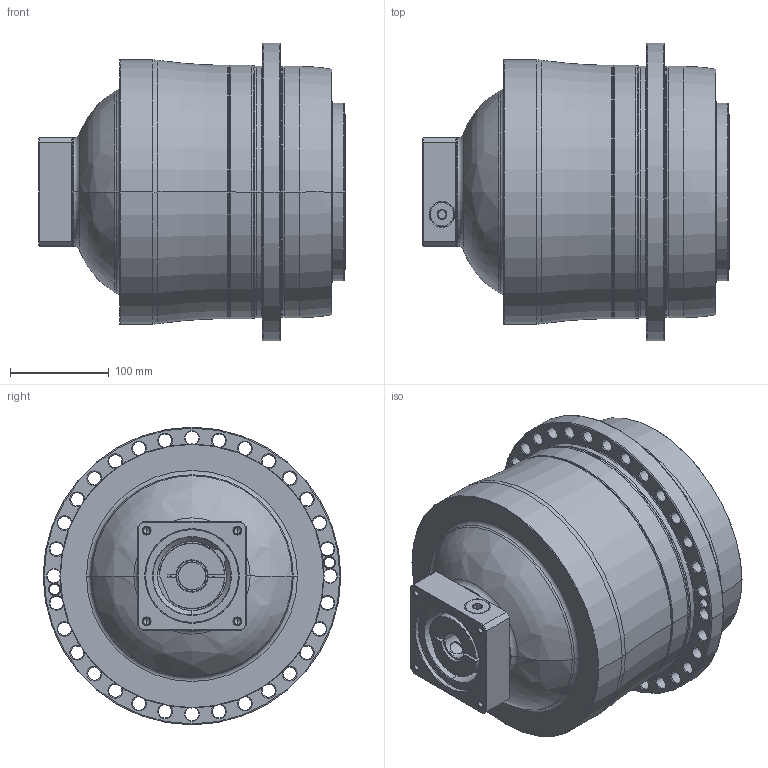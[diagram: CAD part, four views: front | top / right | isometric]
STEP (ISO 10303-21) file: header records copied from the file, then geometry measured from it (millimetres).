
FILE_DESCRIPTION((''),'2;1');
FILE_NAME('AP255_3ST_28-P0409610201_ASM','2018-06-06T',('d01226'),(''),'PRO/ENGINEER BY PARAMETRIC TECHNOLOGY CORPORATION, 2008410','PRO/ENGINEER BY PARAMETRIC TECHNOLOGY CORPORATION, 2008410','');
FILE_SCHEMA(('CONFIG_CONTROL_DESIGN'));
Length unit declared in the file: millimetre
Products named in the file (9): P0278701003; P0359701103; P1366700101; P0503600010; P0912551001; P1211700001; P0409610201; 21711418017; AP255_3ST_28-P0409610201_ASM
Assembly tree (8 placements, depth 2):
  AP255_3ST_28-P0409610201_ASM
    P0278701003
    P0359701103
    P1366700101
    P0503600010
    P0912551001
    P1211700001
    P0409610201
    21711418017
Bounding box: 311 x 302 x 302 mm (x, y, z)
Volume: 13004057.9 mm3; surface area: 694626.2 mm2
Topology: 9 solids, 32 shells, 677 faces, 1625 edges, 987 vertices
Faces by surface type: cylinder 267, cone 221, plane 98, torus 75, bspline 16
Entity records: 24948 total; most frequent: CARTESIAN_POINT 8372, DIRECTION 3823, ORIENTED_EDGE 3136, AXIS2_PLACEMENT_3D 1635, EDGE_CURVE 1615, VERTEX_POINT 987, CIRCLE 945, EDGE_LOOP 814
